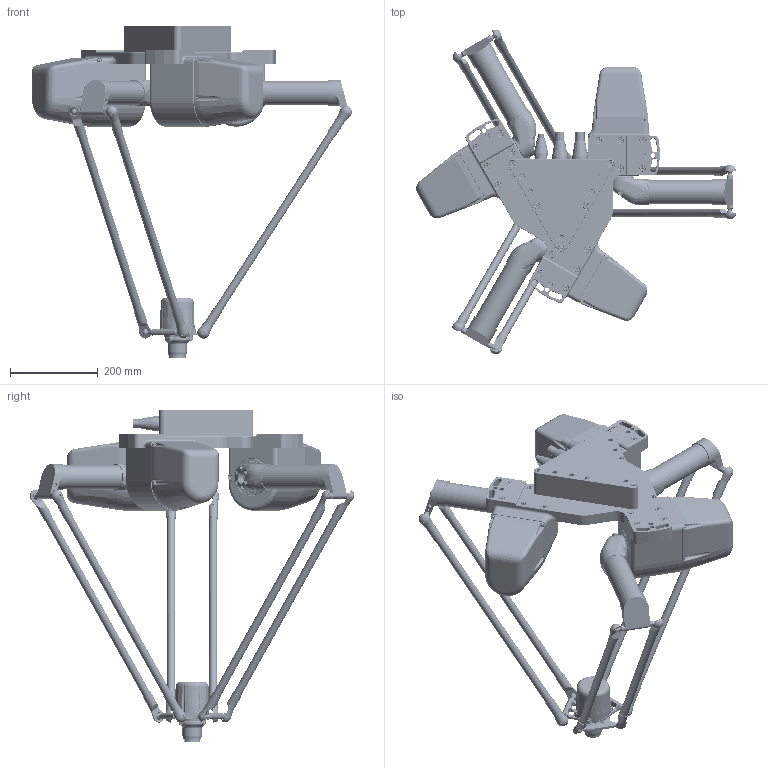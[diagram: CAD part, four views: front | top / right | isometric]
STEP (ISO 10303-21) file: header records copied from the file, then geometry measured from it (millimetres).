
FILE_DESCRIPTION (( 'STEP AP214' ), '1' );
FILE_NAME ('阹陎暱P060J-03-H.STEP', '2020-12-02T08:05:55', ( '' ), ( '' ), 'SwSTEP 2.0', 'SolidWorks 2016', '' );
FILE_SCHEMA (( 'AUTOMOTIVE_DESIGN' ));
Length unit declared in the file: millimetre
Products named in the file (8): 阹陎暱P060J-03-H.sldasm-Part-3; 阹陎暱P060J-03-H; 阹陎暱P060J-03-H.sldasm-Part-5; 阹陎暱P060J-03-H.sldasm-Part-4; 阹陎暱P060J-03-H.sldasm-Part-2; 阹陎暱P060J-03-H.sldasm-Part-1; 阹陎暱P060J-03-H.sldasm-Part-6; 阹陎暱P060J-03-H.sldasm-Part-7
Assembly tree (21 placements, depth 2):
  阹陎暱P060J-03-H
    阹陎暱P060J-03-H.sldasm-Part-1  x6
    阹陎暱P060J-03-H.sldasm-Part-2  x6
    阹陎暱P060J-03-H.sldasm-Part-3  x3
    阹陎暱P060J-03-H.sldasm-Part-4  x3
    阹陎暱P060J-03-H.sldasm-Part-5
    阹陎暱P060J-03-H.sldasm-Part-6
    阹陎暱P060J-03-H.sldasm-Part-7
Bounding box: 730.85 x 742.05 x 758.33 mm (x, y, z)
Volume: 10880335.2 mm3; surface area: 2092363.3 mm2
Topology: 21 solids, 148 shells, 7635 faces, 18577 edges, 11474 vertices
Faces by surface type: cylinder 2598, plane 2573, cone 1114, torus 676, bspline 601, sphere 73
Entity records: 247494 total; most frequent: CARTESIAN_POINT 59958, DIRECTION 33170, ORIENTED_EDGE 31490, EDGE_CURVE 15745, AXIS2_PLACEMENT_3D 13246, VERTEX_POINT 9896, EDGE_LOOP 7313, CIRCLE 7064
